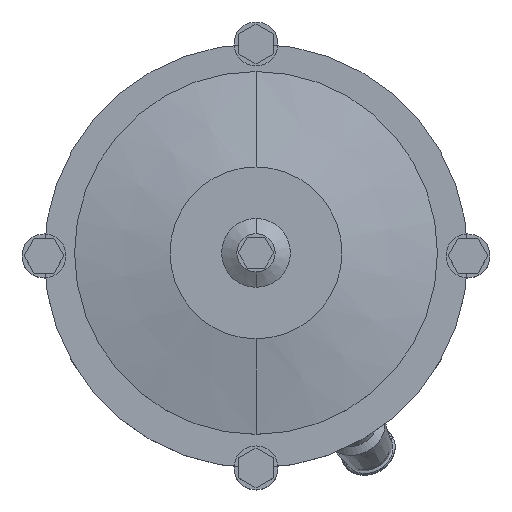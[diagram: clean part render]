
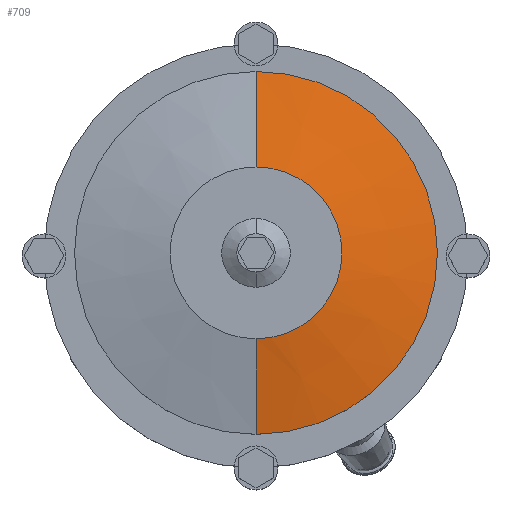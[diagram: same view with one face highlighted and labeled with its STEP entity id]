
A CAD part, top view. The second image highlights one B-rep face of the part: STEP entity #709.
In plain terms, the highlighted conical face has half-angle 78.69 degrees and reference radius 70 mm.
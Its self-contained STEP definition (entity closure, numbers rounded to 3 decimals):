
#709=ADVANCED_FACE('',(#1366),#1367,.T.);
#1366=FACE_OUTER_BOUND('',#2249,.T.);
#1367=CONICAL_SURFACE('',#2250,70.0,1.373);
#2249=EDGE_LOOP('',(#3160,#3161,#3162,#3163));
#2250=AXIS2_PLACEMENT_3D('',#3164,#3165,#3166);
#3160=ORIENTED_EDGE('',*,*,#4485,.F.);
#3161=ORIENTED_EDGE('',*,*,#4619,.F.);
#3162=ORIENTED_EDGE('',*,*,#4487,.F.);
#3163=ORIENTED_EDGE('',*,*,#4620,.F.);
#3164=CARTESIAN_POINT('',(0.0,0.,1035.0));
#3165=DIRECTION('',(-0.0,0.,-1.0));
#3166=DIRECTION('',(0.0,-1.0,0.));
#4485=EDGE_CURVE('',#5182,#5183,#5184,.T.);
#4487=EDGE_CURVE('',#5185,#5187,#5188,.T.);
#4619=EDGE_CURVE('',#5187,#5182,#5397,.T.);
#4620=EDGE_CURVE('',#5183,#5185,#5398,.T.);
#5182=VERTEX_POINT('',#6117);
#5183=VERTEX_POINT('',#6118);
#5184=LINE('',#6119,#6120);
#5185=VERTEX_POINT('',#6121);
#5187=VERTEX_POINT('',#6123);
#5188=LINE('',#6124,#6125);
#5397=CIRCLE('',#6391,95.0);
#5398=CIRCLE('',#6392,45.0);
#6117=CARTESIAN_POINT('',(0.0,-95.0,1030.0));
#6118=CARTESIAN_POINT('',(0.0,-45.0,1040.0));
#6119=CARTESIAN_POINT('',(0.,-70.0,1035.0));
#6120=VECTOR('',#7165,1.0);
#6121=CARTESIAN_POINT('',(0.,45.0,1040.0));
#6123=CARTESIAN_POINT('',(0.,95.0,1030.0));
#6124=CARTESIAN_POINT('',(0.,70.0,1035.0));
#6125=VECTOR('',#7169,1.0);
#6391=AXIS2_PLACEMENT_3D('',#7341,#7342,#7343);
#6392=AXIS2_PLACEMENT_3D('',#7344,#7345,#7346);
#7165=DIRECTION('',(0.,0.981,0.196));
#7169=DIRECTION('',(0.,0.981,-0.196));
#7341=CARTESIAN_POINT('',(0.0,0.0,1030.0));
#7342=DIRECTION('',(0.0,0.,-1.0));
#7343=DIRECTION('',(0.0,-1.0,0.));
#7344=CARTESIAN_POINT('',(0.0,0.,1040.0));
#7345=DIRECTION('',(0.0,0.,1.0));
#7346=DIRECTION('',(0.0,-1.0,0.));
